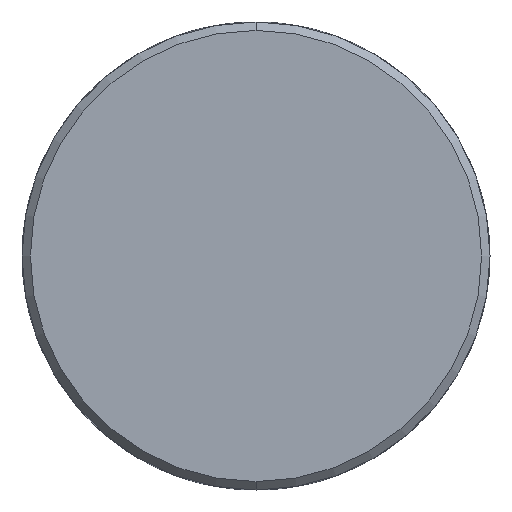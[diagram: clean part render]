
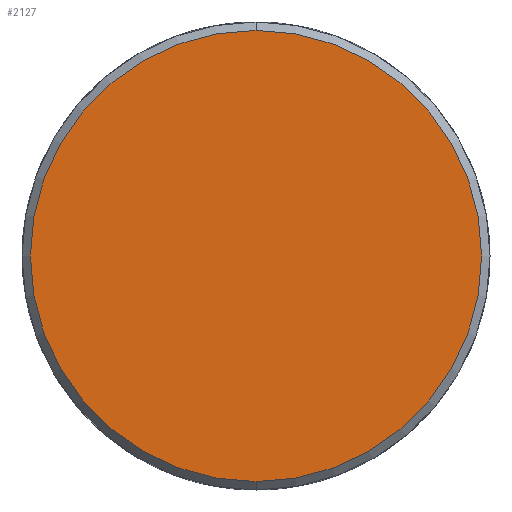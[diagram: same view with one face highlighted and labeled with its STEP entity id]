
A CAD part, front view. The second image highlights one B-rep face of the part: STEP entity #2127.
In plain terms, the highlighted planar face has unit normal (0, -1, 0).
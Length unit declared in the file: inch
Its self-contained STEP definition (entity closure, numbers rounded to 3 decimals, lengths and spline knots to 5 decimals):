
#2115 = EDGE_LOOP ( 'NONE', ( #2124, #2128 ) ) ;
#2124 = ORIENTED_EDGE ( 'NONE', *, *, #2125, .T. ) ;
#2125 = EDGE_CURVE ( 'NONE', #4053, #3875, #2911, .T. ) ;
#2127 = ADVANCED_FACE ( 'NONE', ( #2907 ), #2906, .F. ) ;
#2128 = ORIENTED_EDGE ( 'NONE', *, *, #3911, .T. ) ;
#2847 = CARTESIAN_POINT ( 'NONE',  ( 0., 0., 0. ) ) ;
#2901 = DIRECTION ( 'NONE',  ( 0., 0., 1. ) ) ;
#2902 = DIRECTION ( 'NONE',  ( 0., 1., 0. ) ) ;
#2903 = AXIS2_PLACEMENT_3D ( 'NONE', #2905, #2902, #2901 ) ;
#2905 = CARTESIAN_POINT ( 'NONE',  ( 0., 0., 0. ) ) ;
#2906 = PLANE ( 'NONE',  #2903 ) ;
#2907 = FACE_OUTER_BOUND ( 'NONE', #2115, .T. ) ;
#2908 = DIRECTION ( 'NONE',  ( 0., 0., 1. ) ) ;
#2909 = DIRECTION ( 'NONE',  ( 0., -1., 0. ) ) ;
#2910 = AXIS2_PLACEMENT_3D ( 'NONE', #2847, #2909, #2908 ) ;
#2911 = CIRCLE ( 'NONE', #2910, 1.663 ) ;
#3143 = CARTESIAN_POINT ( 'NONE',  ( 0., 0., -1.663 ) ) ;
#3256 = DIRECTION ( 'NONE',  ( 0., 0., 1. ) ) ;
#3257 = DIRECTION ( 'NONE',  ( 0., -1., 0. ) ) ;
#3258 = CARTESIAN_POINT ( 'NONE',  ( 0., 0., 0. ) ) ;
#3259 = AXIS2_PLACEMENT_3D ( 'NONE', #3258, #3257, #3256 ) ;
#3260 = CIRCLE ( 'NONE', #3259, 1.663 ) ;
#3511 = CARTESIAN_POINT ( 'NONE',  ( 0., 0., 1.663 ) ) ;
#3875 = VERTEX_POINT ( 'NONE', #3143 ) ;
#3911 = EDGE_CURVE ( 'NONE', #3875, #4053, #3260, .T. ) ;
#4053 = VERTEX_POINT ( 'NONE', #3511 ) ;
